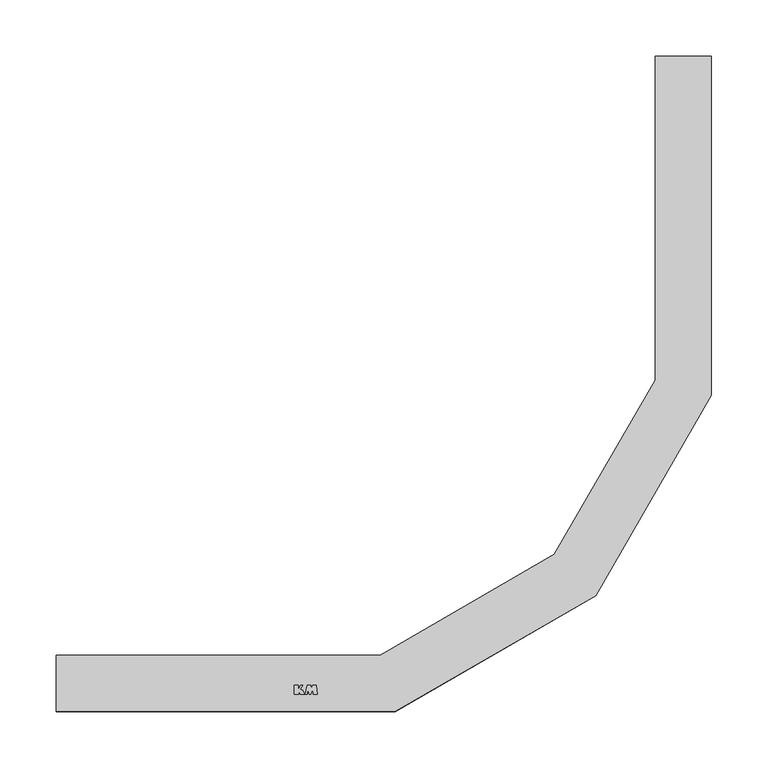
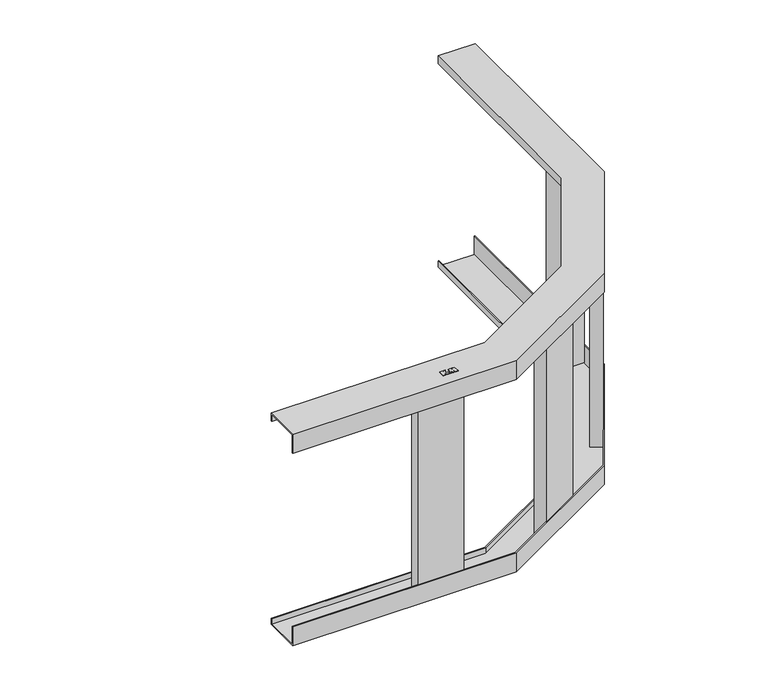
"""IFC4 building model written with IfcOpenShell, lengths in millimetres: cable carrier fitting geometry, КМ Профиль L Угол вертикальный внутренний «Быстрый монтаж» 90° : Угол вертикальный внутренний «Быстрый монтаж» 90°."""

import ifcopenshell
import ifcopenshell.guid

model = None  # the IFC model being written
_history = None  # IfcOwnerHistory: only IFC2X3 demands one
_inside = {}  # id of a spatial element -> (the spatial element, [elements in it])
_under = {}  # id of a project, library or spatial element -> (it, [spatial elements below it])
_declared = {}  # id of a project -> (the project, [libraries it declares])
_typed = {}  # id of a type object -> (the type object, [elements of that type])
_made_of = {}  # id of a material, layer set ... -> (it, [elements and type objects made of it])


def new_model(schema):
    """Start an empty IFC model of exactly this schema.

    Asked for "IFC4X3", IfcOpenShell would pick the latest addendum, in which some entities
    have other attributes; the version numbers below select the first issue.
    IFC2X3 requires an IfcOwnerHistory on every rooted entity: one is made here for all.
    """
    global model, _history
    if schema == "IFC4X3":
        model = ifcopenshell.file(schema_version=(4, 3, 0, 0))
    else:
        model = ifcopenshell.file(schema=schema)
    _inside.clear()
    _under.clear()
    _declared.clear()
    _typed.clear()
    _made_of.clear()
    _history = None
    if model.schema == "IFC2X3":
        org = make("IfcOrganization", Name="unknown")
        user = make(
            "IfcPersonAndOrganization",
            ThePerson=make("IfcPerson", FamilyName="unknown"),
            TheOrganization=org,
        )
        app = make(
            "IfcApplication",
            ApplicationDeveloper=org,
            Version="unknown",
            ApplicationFullName="unknown",
            ApplicationIdentifier="unknown",
        )
        _history = make(
            "IfcOwnerHistory",
            OwningUser=user,
            OwningApplication=app,
            ChangeAction="ADDED",
            CreationDate=0,
        )
    return model


def make(cls, **values):
    """One entity of the class cls with the attributes given. An attribute that is None is left unset."""
    return model.create_entity(
        cls, **{name: value for name, value in values.items() if value is not None}
    )


def rooted(cls, **values):
    """An entity with a GlobalId (a new one), such as an element, a storey or a relation."""
    return make(cls, GlobalId=ifcopenshell.guid.new(), OwnerHistory=_history, **values)


def si_unit(unit_type, name, prefix=None):
    """IfcSIUnit, for example si_unit("LENGTHUNIT", "METRE", prefix="MILLI")."""
    return make("IfcSIUnit", UnitType=unit_type, Prefix=prefix, Name=name)


def assignment(units):
    """IfcUnitAssignment: the units of a project."""
    return None if units is None else make("IfcUnitAssignment", Units=units)


def point(xyz):
    """IfcCartesianPoint."""
    return None if xyz is None else make("IfcCartesianPoint", Coordinates=xyz)


def direction(xyz):
    """IfcDirection."""
    return None if xyz is None else make("IfcDirection", DirectionRatios=xyz)


def frame(location, z_axis=None, x_axis=None):
    """IfcAxis2Placement3D, a coordinate frame: its origin and axes. An axis left out is left unset."""
    return make(
        "IfcAxis2Placement3D",
        Location=point(location),
        Axis=direction(z_axis),
        RefDirection=direction(x_axis),
    )


def origin():
    """The frame at (0, 0, 0) with its axes left unset."""
    return frame((0.0, 0.0, 0.0))


def place(relative_to, where):
    """IfcLocalPlacement: puts the frame where relative to a parent placement (None: the world)."""
    return make(
        "IfcLocalPlacement", PlacementRelTo=relative_to, RelativePlacement=where
    )


def context(
    kind, dimensions, precision=None, world=None, true_north=None, identifier=None
):
    """IfcGeometricRepresentationContext, for example the 3D "Model" context."""
    return make(
        "IfcGeometricRepresentationContext",
        ContextIdentifier=identifier,
        ContextType=kind,
        CoordinateSpaceDimension=dimensions,
        Precision=precision,
        WorldCoordinateSystem=world,
        TrueNorth=true_north,
    )


def project(units=None, contexts=None):
    """IfcProject with its units and contexts."""
    return rooted(
        "IfcProject",
        Name="project",
        RepresentationContexts=contexts,
        UnitsInContext=assignment(units),
    )


def spatial(cls, under=None, at=None, **own):
    """A site, building, storey or space (cls), placed at a placement, below another one or the project."""
    s = rooted(cls, ObjectPlacement=at, **own)
    if under is not None:
        _under.setdefault(under.id(), (under, []))[1].append(s)
    return s


def polyline(points):
    """IfcPolyline through the points."""
    return make("IfcPolyline", Points=[point(p) for p in points])


def outline(outer, holes=None, kind="AREA"):
    """IfcArbitraryClosedProfileDef: a profile drawn as a closed curve; with holes, ...WithVoids."""
    if holes is None:
        return make("IfcArbitraryClosedProfileDef", ProfileType=kind, OuterCurve=outer)
    return make(
        "IfcArbitraryProfileDefWithVoids",
        ProfileType=kind,
        OuterCurve=outer,
        InnerCurves=holes,
    )


def extrude(swept, where, along, depth):
    """IfcExtrudedAreaSolid: the profile swept, set in the frame where, extruded along a direction by depth."""
    return make(
        "IfcExtrudedAreaSolid",
        SweptArea=swept,
        Position=where,
        ExtrudedDirection=direction(along),
        Depth=depth,
    )


def faces_of(points, faces, orient=None, outer=None):
    """IfcFace entities. A face is a list of loops; a loop is a list of indices into points, from 0.

    orient and outer hold one flag for each loop. By default every Orientation is true, the
    first loop of a face is its IfcFaceOuterBound and the others are IfcFaceBound.
    """
    made = []
    for i, loops in enumerate(faces):
        bounds = []
        for j, loop in enumerate(loops):
            is_outer = j == 0 if outer is None else outer[i][j]
            bounds.append(
                make(
                    "IfcFaceOuterBound" if is_outer else "IfcFaceBound",
                    Bound=make("IfcPolyLoop", Polygon=[points[k] for k in loop]),
                    Orientation=True if orient is None else orient[i][j],
                )
            )
        made.append(make("IfcFace", Bounds=bounds))
    return made


def faceted_brep(points, faces, orient=None, outer=None, voids=None):
    """IfcFacetedBrep: a solid bounded by flat faces; with voids (closed shells), ...WithVoids."""
    shared = [point(p) for p in points]
    hull = make("IfcClosedShell", CfsFaces=faces_of(shared, faces, orient, outer))
    if voids is None:
        return make("IfcFacetedBrep", Outer=hull)
    return make(
        "IfcFacetedBrepWithVoids",
        Outer=hull,
        Voids=[
            make(cls, CfsFaces=faces_of(shared, fs, o, b)) for cls, fs, o, b in voids
        ],
    )


def shape(context_of_items, identifier, shape_type, items):
    """IfcShapeRepresentation: the items that make up one representation, for example the "Body"."""
    return make(
        "IfcShapeRepresentation",
        ContextOfItems=context_of_items,
        RepresentationIdentifier=identifier,
        RepresentationType=shape_type,
        Items=items,
    )


def source(mapping_origin, context_of_items, identifier, shape_type, items):
    """IfcRepresentationMap: a shape defined once, which mapped items show again and again."""
    return make(
        "IfcRepresentationMap",
        MappingOrigin=mapping_origin,
        MappedRepresentation=shape(context_of_items, identifier, shape_type, items),
    )


def transform(
    local_origin,
    x_axis=None,
    y_axis=None,
    z_axis=None,
    scale=None,
    scale2=None,
    scale3=None,
    uniform=True,
):
    """IfcCartesianTransformationOperator3D, or its non-uniform kind. x_axis, y_axis, z_axis: its Axis1, 2, 3."""
    if uniform:
        return make(
            "IfcCartesianTransformationOperator3D",
            Axis1=direction(x_axis),
            Axis2=direction(y_axis),
            LocalOrigin=point(local_origin),
            Scale=scale,
            Axis3=direction(z_axis),
        )
    return make(
        "IfcCartesianTransformationOperator3DnonUniform",
        Axis1=direction(x_axis),
        Axis2=direction(y_axis),
        LocalOrigin=point(local_origin),
        Scale=scale,
        Axis3=direction(z_axis),
        Scale2=scale2,
        Scale3=scale3,
    )


def mapped(mapping_source, mapping_target):
    """IfcMappedItem: shows the shape of a source again, moved by a transform."""
    return make(
        "IfcMappedItem", MappingSource=mapping_source, MappingTarget=mapping_target
    )


def made_of(thing, what):
    """Note that an element or type object is made of a material, layer set ...; save() writes the relation."""
    if what is not None:
        _made_of.setdefault(what.id(), (what, []))[1].append(thing)
    return thing


def element(
    cls,
    number,
    at=None,
    inside=None,
    cuts=None,
    type_object=None,
    material=None,
    context=None,
    identifier="Body",
    shape_type=None,
    held_by="IfcProductDefinitionShape",
    body=None,
    shapes=None,
    **own,
):
    """One element of the class cls, such as IfcWall. Its Tag is "e" and its number.

    at: its placement. inside: the storey or other place that contains it. cuts: it is an
    opening in that element (IfcRelVoidsElement). A single representation is given by context,
    identifier, shape_type and body (its items); several are given by shapes. held_by: the class
    of the entity that holds the representations. save() writes the other relations.
    """
    e = rooted(cls, Tag="e%d" % number, ObjectPlacement=at, **own)
    if body is not None:
        shapes = [shape(context, identifier, shape_type, body)]
    if shapes is not None:
        e.Representation = make(held_by, Representations=shapes)
    if inside is not None:
        _inside.setdefault(inside.id(), (inside, []))[1].append(e)
    if cuts is not None:
        rooted(
            "IfcRelVoidsElement", RelatingBuildingElement=cuts, RelatedOpeningElement=e
        )
    if type_object is not None:
        _typed.setdefault(type_object.id(), (type_object, []))[1].append(e)
    return made_of(e, material)


def aggregate(whole, parts):
    """IfcRelAggregates: a whole, such as a stair, and the parts it consists of."""
    return rooted("IfcRelAggregates", RelatingObject=whole, RelatedObjects=parts)


def save(model, path):
    """Write the relations noted so far, then the file.

    IfcRelAggregates (storeys below a building ...), IfcRelContainedInSpatialStructure (elements
    in a storey), IfcRelDefinesByType, IfcRelAssociatesMaterial and IfcRelDeclares: one each for
    every whole, place, type object, material and project.
    """
    for whole, parts in _under.values():
        aggregate(whole, parts)
    for where, things in _inside.values():
        rooted(
            "IfcRelContainedInSpatialStructure",
            RelatedElements=things,
            RelatingStructure=where,
        )
    for kind, things in _typed.values():
        rooted("IfcRelDefinesByType", RelatedObjects=things, RelatingType=kind)
    for what, things in _made_of.values():
        rooted("IfcRelAssociatesMaterial", RelatedObjects=things, RelatingMaterial=what)
    for by, libraries in _declared.values():
        rooted("IfcRelDeclares", RelatingContext=by, RelatedDefinitions=libraries)
    model.write(path)


def cable_carrier_fitting_771aacc1(model_context):
    return source(origin(), model_context, "Body", "SolidModel", [
        extrude(outline(polyline([(-344.2388781, -1.986157), (-340.7316192, -1.986157), (-340.7316192, -5.564509), (-338.8289757, -1.986157), (-336.703011, -1.986157), (-339.1694955, -5.5086619), (-336.9277444, -6.194034), (-335.0604353, -9.737421), (-338.9588467, -9.737421), (-340.6630512, -6.5720802), (-340.6630512, -9.737421), (-344.2388781, -9.737421), (-344.2388781, -1.986157)])), frame((0.0, 0.0, 150.0), z_axis=(0.0, 0.0, 1.0), x_axis=(1.0, 0.0, 0.0)), (0.0, 0.0, 1.0), 0.8),
        extrude(outline(polyline([(-332.9962759, -9.737421), (-334.8943395, -9.737421), (-333.0740589, -1.9647569), (-330.0433304, -1.9647569), (-329.2768297, -5.0390232), (-328.2555223, -1.9623682), (-325.0615674, -1.9623682), (-323.8700699, -9.7429915), (-327.7725105, -9.7429915), (-328.2500032, -5.0541919), (-329.7300717, -9.7434681), (-331.2045824, -9.7434681), (-332.6126012, -5.0696135), (-332.9962759, -9.737421)])), frame((0.0, 0.0, 150.0), z_axis=(0.0, 0.0, 1.0), x_axis=(1.0, 0.0, 0.0)), (0.0, 0.0, 1.0), 0.8),
        extrude(outline(polyline([(-324.5, -7.8), (-324.5, -23.8), (-385.5, -23.8), (-385.5, -7.8), (-324.5, -7.8)])), frame((0.0, 0.0, -147.6), z_axis=(0.0, 0.0, 1.0), x_axis=(1.0, 0.0, 0.0)), (0.0, 0.0, 1.0), 295.2),
        extrude(outline(polyline([(-148.4297817, 56.3891935), (-140.4297817, 42.532787), (-193.2573313, 12.032787), (-201.2573313, 25.8891935), (-148.4297817, 56.3891935)])), frame((0.0, 0.0, -147.6), z_axis=(0.0, 0.0, 1.0), x_axis=(1.0, 0.0, 0.0)), (0.0, 0.0, 1.0), 295.2),
        extrude(outline(polyline([(-12.032787, 193.2573313), (-42.532787, 140.4297817), (-56.3891935, 148.4297817), (-25.8891935, 201.2573313), (-12.032787, 193.2573313)])), frame((0.0, 0.0, -147.6), z_axis=(0.0, 0.0, 1.0), x_axis=(1.0, 0.0, 0.0)), (0.0, 0.0, 1.0), 295.2),
        extrude(outline(polyline([(23.8, 360.5), (23.8, 299.5), (7.8, 299.5), (7.8, 360.5), (23.8, 360.5)])), frame((0.0, 0.0, -147.6), z_axis=(0.0, 0.0, 1.0), x_axis=(1.0, 0.0, 0.0)), (0.0, 0.0, 1.0), 295.2),
        faceted_brep([(-555.0, -25.0, 150.0), (-555.0, 25.0, 150.0), (-555.0, 25.0, 138.8), (-555.0, 23.8, 138.8), (-555.0, 23.8, 148.8), (-555.0, -23.8, 148.8), (-555.0, -23.8, 123.0), (-555.0, -25.0, 123.0), (-255.0, -25.0, 150.0), (-77.4871131, 77.4871131, 150.0), (25.0, 255.0, 150.0), (25.0, 555.0, 150.0), (-25.0, 555.0, 150.0), (-25.0, 268.3974596, 150.0), (-114.0896534, 114.0896534, 150.0), (-268.3974596, 25.0, 150.0), (-268.3974596, 25.0, 138.8), (-255.321539, -23.8, 123.0), (-78.365574, 78.365574, 123.0), (23.8, 255.321539, 123.0), (23.8, 555.0, 123.0), (25.0, 555.0, 123.0), (25.0, 255.0, 123.0), (-77.4871131, 77.4871131, 123.0), (-255.0, -25.0, 123.0), (-114.0896534, 114.0896534, 138.8), (-25.0, 268.3974596, 138.8), (23.8, 555.0, 148.8), (-23.8, 555.0, 148.8), (-23.8, 555.0, 138.8), (-25.0, 555.0, 138.8), (-23.8, 268.0759206, 138.8), (-113.2111925, 113.2111925, 138.8), (-268.0759206, 23.8, 138.8), (-268.0759206, 23.8, 148.8), (-113.2111925, 113.2111925, 148.8), (-23.8, 268.0759206, 148.8), (23.8, 255.321539, 148.8), (-78.365574, 78.365574, 148.8), (-255.321539, -23.8, 148.8)], [[[0, 1, 2, 3, 4, 5, 6, 7]], [[1, 0, 8, 9, 10, 11, 12, 13, 14, 15]], [[2, 1, 15, 16]], [[7, 6, 17, 18, 19, 20, 21, 22, 23, 24]], [[0, 7, 24, 8]], [[16, 15, 14, 25]], [[8, 24, 23, 9]], [[25, 14, 13, 26]], [[9, 23, 22, 10]], [[11, 21, 20, 27, 28, 29, 30, 12]], [[26, 13, 12, 30]], [[10, 22, 21, 11]], [[3, 2, 16, 25, 26, 30, 29, 31, 32, 33]], [[4, 3, 33, 34]], [[5, 4, 34, 35, 36, 28, 27, 37, 38, 39]], [[6, 5, 39, 17]], [[34, 33, 32, 35]], [[17, 39, 38, 18]], [[35, 32, 31, 36]], [[18, 38, 37, 19]], [[36, 31, 29, 28]], [[19, 37, 27, 20]]]),
        faceted_brep([(-555.0, -25.0, -123.0), (-555.0, -23.8, -123.0), (-555.0, -23.8, -148.8), (-555.0, 23.8, -148.8), (-555.0, 23.8, -141.0), (-555.0, 25.0, -141.0), (-555.0, 25.0, -150.0), (-555.0, -25.0, -150.0), (-255.0, -25.0, -123.0), (-77.4871131, 77.4871131, -123.0), (25.0, 255.0, -123.0), (25.0, 555.0, -123.0), (23.8, 555.0, -123.0), (23.8, 255.321539, -123.0), (-78.365574, 78.365574, -123.0), (-255.321539, -23.8, -123.0), (-268.3974596, 25.0, -141.0), (-268.3974596, 25.0, -150.0), (-114.0896534, 114.0896534, -150.0), (-25.0, 268.3974596, -150.0), (-25.0, 555.0, -150.0), (25.0, 555.0, -150.0), (25.0, 255.0, -150.0), (-77.4871131, 77.4871131, -150.0), (-255.0, -25.0, -150.0), (-114.0896534, 114.0896534, -141.0), (-25.0, 268.3974596, -141.0), (-25.0, 555.0, -141.0), (-23.8, 555.0, -141.0), (-23.8, 555.0, -148.8), (23.8, 555.0, -148.8), (-255.321539, -23.8, -148.8), (-78.365574, 78.365574, -148.8), (23.8, 255.321539, -148.8), (-23.8, 268.0759206, -148.8), (-113.2111925, 113.2111925, -148.8), (-268.0759206, 23.8, -148.8), (-268.0759206, 23.8, -141.0), (-113.2111925, 113.2111925, -141.0), (-23.8, 268.0759206, -141.0)], [[[0, 1, 2, 3, 4, 5, 6, 7]], [[1, 0, 8, 9, 10, 11, 12, 13, 14, 15]], [[6, 5, 16, 17]], [[7, 6, 17, 18, 19, 20, 21, 22, 23, 24]], [[0, 7, 24, 8]], [[17, 16, 25, 18]], [[8, 24, 23, 9]], [[18, 25, 26, 19]], [[9, 23, 22, 10]], [[11, 21, 20, 27, 28, 29, 30, 12]], [[19, 26, 27, 20]], [[10, 22, 21, 11]], [[2, 1, 15, 31]], [[3, 2, 31, 32, 33, 30, 29, 34, 35, 36]], [[4, 3, 36, 37]], [[5, 4, 37, 38, 39, 28, 27, 26, 25, 16]], [[31, 15, 14, 32]], [[37, 36, 35, 38]], [[32, 14, 13, 33]], [[38, 35, 34, 39]], [[33, 13, 12, 30]], [[39, 34, 29, 28]]]),
    ])


if __name__ == "__main__":
    model = new_model("IFC4")
    model_context = context("Model", 3, world=origin())
    ifc_project = project(units=[si_unit("LENGTHUNIT", "METRE", prefix="MILLI")], contexts=[model_context])
    site = spatial("IfcSite", under=ifc_project)
    building = spatial("IfcBuilding", under=site)
    placement = place(None, origin())
    cable_carrier_fitting_shape = cable_carrier_fitting_771aacc1(model_context)
    element("IfcCableCarrierFitting", 1, ObjectType="КМ Профиль L Угол вертикальный внутренний «Быстрый монтаж» 90° : Угол вертикальный внутренний «Быстрый монтаж» 90°", at=placement, inside=building, context=model_context, shape_type="MappedRepresentation", body=[
        mapped(cable_carrier_fitting_shape, transform((0.0, 0.0, 0.0), x_axis=(1.0, 0.0, 0.0), y_axis=(0.0, 1.0, 0.0), z_axis=(0.0, 0.0, 1.0))),
    ])
    save(model, "model.ifc")
